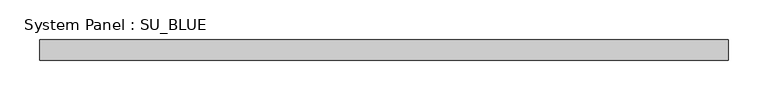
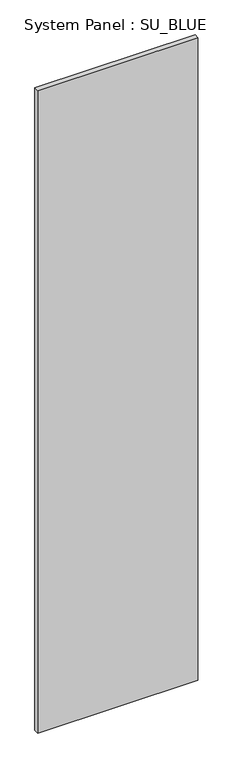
"""IFC4 building model written with IfcOpenShell, lengths in millimetres: plate geometry, System Panel : SU_BLUE."""

from ifc_helpers import new_model, si_unit, origin, origin_with_axes, place, context, project, spatial, polyline, outline, extrude, source, transform, mapped, element, save


def system_panel_su_blue_7566f74c(model_context):
    return source(origin(), model_context, "Body", "SweptSolid", [
        extrude(outline(polyline([(431.2346078, 19.05), (-431.2346078, 19.05), (-431.2346078, 44.45), (431.2346078, 44.45), (431.2346078, 19.05)])), origin_with_axes(), (0.0, 0.0, 1.0), 3657.6),
    ])


if __name__ == "__main__":
    model = new_model("IFC4")
    model_context = context("Model", 3, world=origin())
    ifc_project = project(units=[si_unit("LENGTHUNIT", "METRE", prefix="MILLI")], contexts=[model_context])
    site = spatial("IfcSite", under=ifc_project)
    building = spatial("IfcBuilding", under=site)
    placement = place(None, origin())
    system_panel_su_blue_shape = system_panel_su_blue_7566f74c(model_context)
    element("IfcPlate", 1, ObjectType="System Panel : SU_BLUE", at=placement, inside=building, context=model_context, shape_type="MappedRepresentation", body=[
        mapped(system_panel_su_blue_shape, transform((0.0, 0.0, 0.0), x_axis=(1.0, 0.0, 0.0), y_axis=(0.0, 1.0, 0.0), z_axis=(0.0, 0.0, 1.0))),
    ])
    save(model, "model.ifc")
